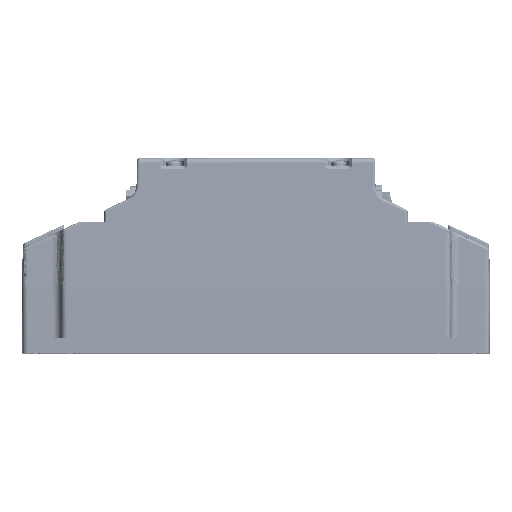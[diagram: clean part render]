
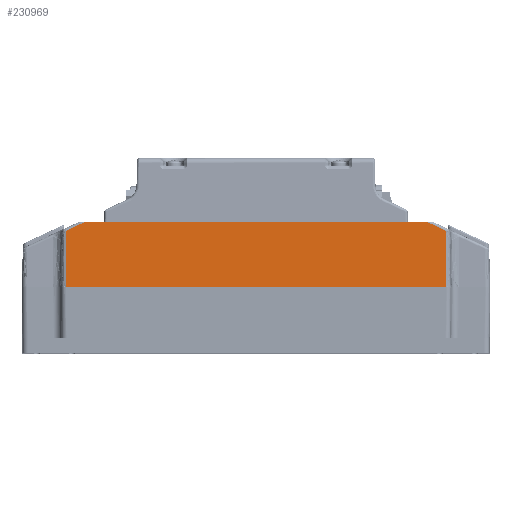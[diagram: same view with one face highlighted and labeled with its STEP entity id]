
A CAD part, top view. The second image highlights one B-rep face of the part: STEP entity #230969.
In plain terms, the highlighted planar face has unit normal (0, 0.018, 1).
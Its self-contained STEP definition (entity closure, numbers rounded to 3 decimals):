
#32391 = FACE_OUTER_BOUND ( 'NONE', #240494, .T. ) ;
#42881 = CARTESIAN_POINT ( 'NONE',  ( -73.17, 25.5, 71.17 ) ) ;
#42913 = PLANE ( 'NONE',  #283743 ) ;
#43016 = DIRECTION ( 'NONE',  ( 0., 0.017, 1. ) ) ;
#43021 = DIRECTION ( 'NONE',  ( 0., -1., 0.017 ) ) ;
#145442 = VERTEX_POINT ( 'NONE', #190499 ) ;
#145443 = VERTEX_POINT ( 'NONE', #190490 ) ;
#146384 = VERTEX_POINT ( 'NONE', #222882 ) ;
#146393 = VERTEX_POINT ( 'NONE', #222923 ) ;
#146396 = VERTEX_POINT ( 'NONE', #222929 ) ;
#146404 = VERTEX_POINT ( 'NONE', #222949 ) ;
#190490 = CARTESIAN_POINT ( 'NONE',  ( -73.17, 25.5, 71.17 ) ) ;
#190499 = CARTESIAN_POINT ( 'NONE',  ( 73.17, 25.5, 71.17 ) ) ;
#222882 = CARTESIAN_POINT ( 'NONE',  ( 66.231, 50.455, 70.735 ) ) ;
#222923 = CARTESIAN_POINT ( 'NONE',  ( -73.17, 47.219, 70.791 ) ) ;
#222929 = CARTESIAN_POINT ( 'NONE',  ( 73.17, 47.219, 70.791 ) ) ;
#222949 = CARTESIAN_POINT ( 'NONE',  ( -66.231, 50.455, 70.735 ) ) ;
#230969 = ADVANCED_FACE ( 'NONE', ( #32391 ), #42913, .T. ) ;
#238684 = LINE ( 'NONE', #241313, #238694 ) ;
#238694 = VECTOR ( 'NONE', #241314, 1000. ) ;
#238708 = LINE ( 'NONE', #241329, #238714 ) ;
#238714 = VECTOR ( 'NONE', #241331, 1000. ) ;
#238716 = LINE ( 'NONE', #241333, #238722 ) ;
#238720 = LINE ( 'NONE', #241343, #238730 ) ;
#238722 = VECTOR ( 'NONE', #241334, 1000. ) ;
#238730 = VECTOR ( 'NONE', #241344, 1000. ) ;
#238736 = LINE ( 'NONE', #241373, #238742 ) ;
#238742 = VECTOR ( 'NONE', #241374, 1000. ) ;
#240494 = EDGE_LOOP ( 'NONE', ( #287466, #287469, #287471, #287474, #287477, #287479 ) ) ;
#241313 = CARTESIAN_POINT ( 'NONE',  ( 73.17, 25.5, 71.17 ) ) ;
#241314 = DIRECTION ( 'NONE',  ( 0., -1., 0.017 ) ) ;
#241329 = CARTESIAN_POINT ( 'NONE',  ( -81.491, 43.339, 70.859 ) ) ;
#241331 = DIRECTION ( 'NONE',  ( -0.906, -0.423, 0.007 ) ) ;
#241333 = CARTESIAN_POINT ( 'NONE',  ( -65.598, 50.455, 70.735 ) ) ;
#241334 = DIRECTION ( 'NONE',  ( -1., 0., 0. ) ) ;
#241343 = CARTESIAN_POINT ( 'NONE',  ( -38.705, 99.388, 69.88 ) ) ;
#241344 = DIRECTION ( 'NONE',  ( -0.906, 0.423, -0.007 ) ) ;
#241373 = CARTESIAN_POINT ( 'NONE',  ( -73.17, 25.5, 71.17 ) ) ;
#241374 = DIRECTION ( 'NONE',  ( 0., -1., 0.017 ) ) ;
#250540 = EDGE_CURVE ( 'NONE', #146396, #145442, #238684, .T. ) ;
#250563 = EDGE_CURVE ( 'NONE', #146404, #146393, #238708, .T. ) ;
#250569 = EDGE_CURVE ( 'NONE', #146384, #146404, #238716, .T. ) ;
#250582 = EDGE_CURVE ( 'NONE', #146396, #146384, #238720, .T. ) ;
#250599 = EDGE_CURVE ( 'NONE', #146393, #145443, #238736, .T. ) ;
#253203 = EDGE_CURVE ( 'NONE', #145443, #145442, #275975, .T. ) ;
#265792 = CARTESIAN_POINT ( 'NONE',  ( -73.17, 25.5, 71.17 ) ) ;
#265795 = DIRECTION ( 'NONE',  ( 1., 0., 0. ) ) ;
#275975 = LINE ( 'NONE', #265792, #275979 ) ;
#275979 = VECTOR ( 'NONE', #265795, 1000. ) ;
#283743 = AXIS2_PLACEMENT_3D ( 'NONE', #42881, #43016, #43021 ) ;
#287466 = ORIENTED_EDGE ( 'NONE', *, *, #250582, .T. ) ;
#287469 = ORIENTED_EDGE ( 'NONE', *, *, #250569, .T. ) ;
#287471 = ORIENTED_EDGE ( 'NONE', *, *, #250563, .T. ) ;
#287474 = ORIENTED_EDGE ( 'NONE', *, *, #250599, .T. ) ;
#287477 = ORIENTED_EDGE ( 'NONE', *, *, #253203, .T. ) ;
#287479 = ORIENTED_EDGE ( 'NONE', *, *, #250540, .F. ) ;
